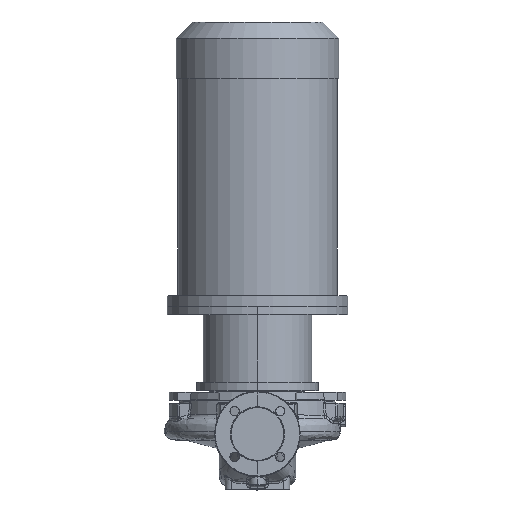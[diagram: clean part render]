
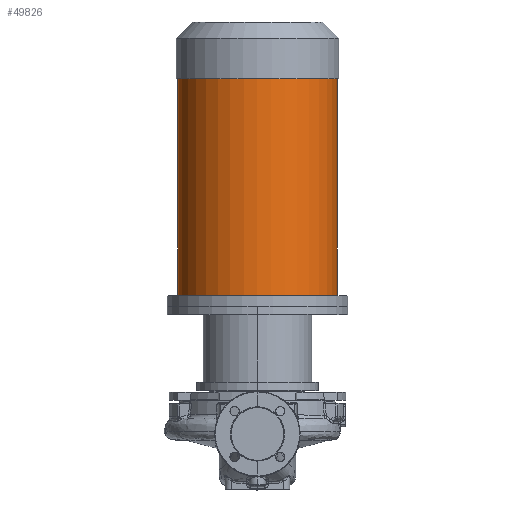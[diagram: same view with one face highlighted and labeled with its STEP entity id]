
A CAD part, top view. The second image highlights one B-rep face of the part: STEP entity #49826.
In plain terms, the highlighted cylindrical face has radius 154.5 mm (diameter 309 mm), a partial arc.
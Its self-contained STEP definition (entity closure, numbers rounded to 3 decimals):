
#2877 = LINE ( 'NONE', #26870, #22743 ) ;
#4072 = DIRECTION ( 'NONE',  ( 0., -1., 0. ) ) ;
#8827 = ORIENTED_EDGE ( 'NONE', *, *, #10291, .F. ) ;
#10291 = EDGE_CURVE ( 'NONE', #68032, #23702, #2877, .T. ) ;
#14452 = DIRECTION ( 'NONE',  ( 0., -1., 0. ) ) ;
#15561 = EDGE_CURVE ( 'NONE', #68032, #54712, #73495, .T. ) ;
#16749 = LINE ( 'NONE', #76908, #73295 ) ;
#18043 = CIRCLE ( 'NONE', #21718, 154.5 ) ;
#18844 = ORIENTED_EDGE ( 'NONE', *, *, #15561, .T. ) ;
#21718 = AXIS2_PLACEMENT_3D ( 'NONE', #76861, #4072, #28146 ) ;
#22743 = VECTOR ( 'NONE', #14452, 1000. ) ;
#23702 = VERTEX_POINT ( 'NONE', #66764 ) ;
#26211 = ORIENTED_EDGE ( 'NONE', *, *, #60904, .F. ) ;
#26870 = CARTESIAN_POINT ( 'NONE',  ( 154.5, 247.3, 0. ) ) ;
#26872 = ORIENTED_EDGE ( 'NONE', *, *, #58152, .T. ) ;
#28146 = DIRECTION ( 'NONE',  ( -1., 0., 0. ) ) ;
#32734 = CARTESIAN_POINT ( 'NONE',  ( 0., 687.3, 0. ) ) ;
#33984 = EDGE_LOOP ( 'NONE', ( #8827, #18844, #26872, #26211 ) ) ;
#35474 = AXIS2_PLACEMENT_3D ( 'NONE', #49770, #68770, #67717 ) ;
#39046 = CARTESIAN_POINT ( 'NONE',  ( -154.5, 687.3, 0. ) ) ;
#42396 = CARTESIAN_POINT ( 'NONE',  ( -154.5, 267.3, 0. ) ) ;
#44741 = CARTESIAN_POINT ( 'NONE',  ( 154.5, 687.3, 0. ) ) ;
#49565 = DIRECTION ( 'NONE',  ( 0., -1., 0. ) ) ;
#49770 = CARTESIAN_POINT ( 'NONE',  ( 0., 247.3, 0. ) ) ;
#49826 = ADVANCED_FACE ( 'NONE', ( #56942 ), #53138, .T. ) ;
#53138 = CYLINDRICAL_SURFACE ( 'NONE', #35474, 154.5 ) ;
#53715 = DIRECTION ( 'NONE',  ( 0., -1., 0. ) ) ;
#54712 = VERTEX_POINT ( 'NONE', #39046 ) ;
#56942 = FACE_OUTER_BOUND ( 'NONE', #33984, .T. ) ;
#58152 = EDGE_CURVE ( 'NONE', #54712, #59582, #16749, .T. ) ;
#59582 = VERTEX_POINT ( 'NONE', #42396 ) ;
#60904 = EDGE_CURVE ( 'NONE', #23702, #59582, #18043, .T. ) ;
#66764 = CARTESIAN_POINT ( 'NONE',  ( 154.5, 267.3, 0. ) ) ;
#67717 = DIRECTION ( 'NONE',  ( -1., 0., 0. ) ) ;
#68032 = VERTEX_POINT ( 'NONE', #44741 ) ;
#68770 = DIRECTION ( 'NONE',  ( 0., -1., 0. ) ) ;
#73216 = AXIS2_PLACEMENT_3D ( 'NONE', #32734, #49565, #74081 ) ;
#73295 = VECTOR ( 'NONE', #53715, 1000. ) ;
#73495 = CIRCLE ( 'NONE', #73216, 154.5 ) ;
#74081 = DIRECTION ( 'NONE',  ( -1., 0., 0. ) ) ;
#76861 = CARTESIAN_POINT ( 'NONE',  ( 0., 267.3, 0. ) ) ;
#76908 = CARTESIAN_POINT ( 'NONE',  ( -154.5, 247.3, 0. ) ) ;
